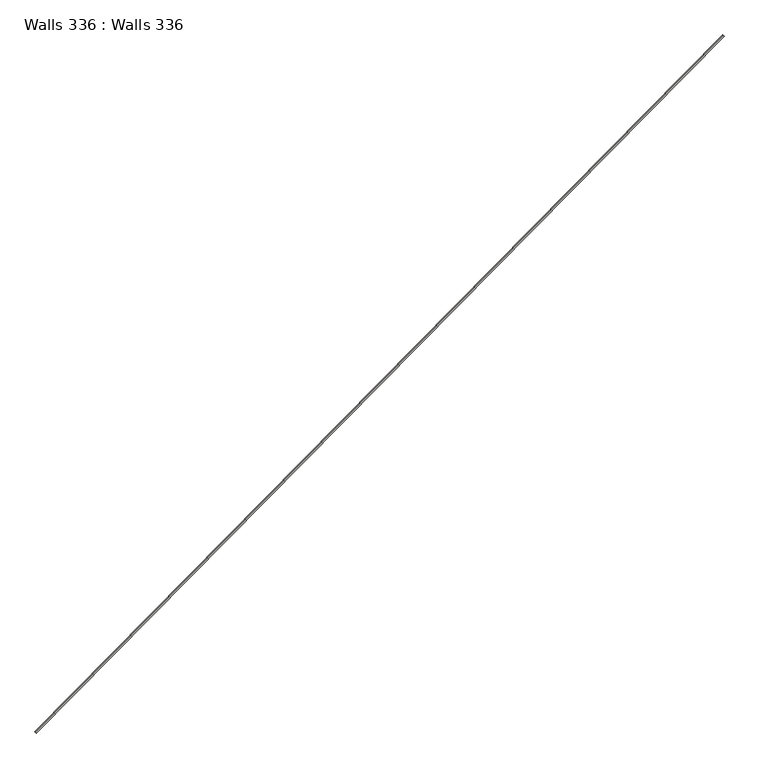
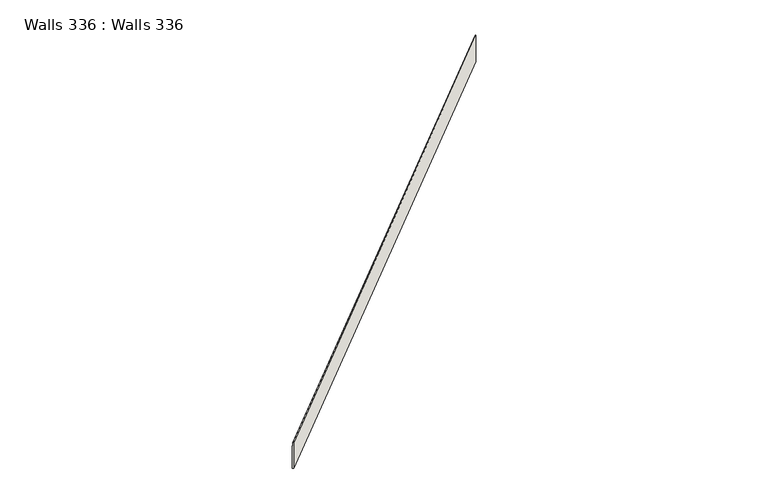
"""IFC4 building model written with IfcOpenShell, lengths in millimetres: wall geometry, Walls 336 : Walls 336."""

import ifcopenshell
import ifcopenshell.guid

model = None  # the IFC model being written
_history = None  # IfcOwnerHistory: only IFC2X3 demands one
_inside = {}  # id of a spatial element -> (the spatial element, [elements in it])
_under = {}  # id of a project, library or spatial element -> (it, [spatial elements below it])
_declared = {}  # id of a project -> (the project, [libraries it declares])
_typed = {}  # id of a type object -> (the type object, [elements of that type])
_made_of = {}  # id of a material, layer set ... -> (it, [elements and type objects made of it])


def new_model(schema):
    """Start an empty IFC model of exactly this schema.

    Asked for "IFC4X3", IfcOpenShell would pick the latest addendum, in which some entities
    have other attributes; the version numbers below select the first issue.
    IFC2X3 requires an IfcOwnerHistory on every rooted entity: one is made here for all.
    """
    global model, _history
    if schema == "IFC4X3":
        model = ifcopenshell.file(schema_version=(4, 3, 0, 0))
    else:
        model = ifcopenshell.file(schema=schema)
    _inside.clear()
    _under.clear()
    _declared.clear()
    _typed.clear()
    _made_of.clear()
    _history = None
    if model.schema == "IFC2X3":
        org = make("IfcOrganization", Name="unknown")
        user = make(
            "IfcPersonAndOrganization",
            ThePerson=make("IfcPerson", FamilyName="unknown"),
            TheOrganization=org,
        )
        app = make(
            "IfcApplication",
            ApplicationDeveloper=org,
            Version="unknown",
            ApplicationFullName="unknown",
            ApplicationIdentifier="unknown",
        )
        _history = make(
            "IfcOwnerHistory",
            OwningUser=user,
            OwningApplication=app,
            ChangeAction="ADDED",
            CreationDate=0,
        )
    return model


def make(cls, **values):
    """One entity of the class cls with the attributes given. An attribute that is None is left unset."""
    return model.create_entity(
        cls, **{name: value for name, value in values.items() if value is not None}
    )


def rooted(cls, **values):
    """An entity with a GlobalId (a new one), such as an element, a storey or a relation."""
    return make(cls, GlobalId=ifcopenshell.guid.new(), OwnerHistory=_history, **values)


def si_unit(unit_type, name, prefix=None):
    """IfcSIUnit, for example si_unit("LENGTHUNIT", "METRE", prefix="MILLI")."""
    return make("IfcSIUnit", UnitType=unit_type, Prefix=prefix, Name=name)


def assignment(units):
    """IfcUnitAssignment: the units of a project."""
    return None if units is None else make("IfcUnitAssignment", Units=units)


def point(xyz):
    """IfcCartesianPoint."""
    return None if xyz is None else make("IfcCartesianPoint", Coordinates=xyz)


def direction(xyz):
    """IfcDirection."""
    return None if xyz is None else make("IfcDirection", DirectionRatios=xyz)


def frame(location, z_axis=None, x_axis=None):
    """IfcAxis2Placement3D, a coordinate frame: its origin and axes. An axis left out is left unset."""
    return make(
        "IfcAxis2Placement3D",
        Location=point(location),
        Axis=direction(z_axis),
        RefDirection=direction(x_axis),
    )


def origin():
    """The frame at (0, 0, 0) with its axes left unset."""
    return frame((0.0, 0.0, 0.0))


def place(relative_to, where):
    """IfcLocalPlacement: puts the frame where relative to a parent placement (None: the world)."""
    return make(
        "IfcLocalPlacement", PlacementRelTo=relative_to, RelativePlacement=where
    )


def context(
    kind, dimensions, precision=None, world=None, true_north=None, identifier=None
):
    """IfcGeometricRepresentationContext, for example the 3D "Model" context."""
    return make(
        "IfcGeometricRepresentationContext",
        ContextIdentifier=identifier,
        ContextType=kind,
        CoordinateSpaceDimension=dimensions,
        Precision=precision,
        WorldCoordinateSystem=world,
        TrueNorth=true_north,
    )


def project(units=None, contexts=None):
    """IfcProject with its units and contexts."""
    return rooted(
        "IfcProject",
        Name="project",
        RepresentationContexts=contexts,
        UnitsInContext=assignment(units),
    )


def spatial(cls, under=None, at=None, **own):
    """A site, building, storey or space (cls), placed at a placement, below another one or the project."""
    s = rooted(cls, ObjectPlacement=at, **own)
    if under is not None:
        _under.setdefault(under.id(), (under, []))[1].append(s)
    return s


def faces_of(points, faces, orient=None, outer=None):
    """IfcFace entities. A face is a list of loops; a loop is a list of indices into points, from 0.

    orient and outer hold one flag for each loop. By default every Orientation is true, the
    first loop of a face is its IfcFaceOuterBound and the others are IfcFaceBound.
    """
    made = []
    for i, loops in enumerate(faces):
        bounds = []
        for j, loop in enumerate(loops):
            is_outer = j == 0 if outer is None else outer[i][j]
            bounds.append(
                make(
                    "IfcFaceOuterBound" if is_outer else "IfcFaceBound",
                    Bound=make("IfcPolyLoop", Polygon=[points[k] for k in loop]),
                    Orientation=True if orient is None else orient[i][j],
                )
            )
        made.append(make("IfcFace", Bounds=bounds))
    return made


def faceted_brep(points, faces, orient=None, outer=None, voids=None):
    """IfcFacetedBrep: a solid bounded by flat faces; with voids (closed shells), ...WithVoids."""
    shared = [point(p) for p in points]
    hull = make("IfcClosedShell", CfsFaces=faces_of(shared, faces, orient, outer))
    if voids is None:
        return make("IfcFacetedBrep", Outer=hull)
    return make(
        "IfcFacetedBrepWithVoids",
        Outer=hull,
        Voids=[
            make(cls, CfsFaces=faces_of(shared, fs, o, b)) for cls, fs, o, b in voids
        ],
    )


def shape(context_of_items, identifier, shape_type, items):
    """IfcShapeRepresentation: the items that make up one representation, for example the "Body"."""
    return make(
        "IfcShapeRepresentation",
        ContextOfItems=context_of_items,
        RepresentationIdentifier=identifier,
        RepresentationType=shape_type,
        Items=items,
    )


def source(mapping_origin, context_of_items, identifier, shape_type, items):
    """IfcRepresentationMap: a shape defined once, which mapped items show again and again."""
    return make(
        "IfcRepresentationMap",
        MappingOrigin=mapping_origin,
        MappedRepresentation=shape(context_of_items, identifier, shape_type, items),
    )


def transform(
    local_origin,
    x_axis=None,
    y_axis=None,
    z_axis=None,
    scale=None,
    scale2=None,
    scale3=None,
    uniform=True,
):
    """IfcCartesianTransformationOperator3D, or its non-uniform kind. x_axis, y_axis, z_axis: its Axis1, 2, 3."""
    if uniform:
        return make(
            "IfcCartesianTransformationOperator3D",
            Axis1=direction(x_axis),
            Axis2=direction(y_axis),
            LocalOrigin=point(local_origin),
            Scale=scale,
            Axis3=direction(z_axis),
        )
    return make(
        "IfcCartesianTransformationOperator3DnonUniform",
        Axis1=direction(x_axis),
        Axis2=direction(y_axis),
        LocalOrigin=point(local_origin),
        Scale=scale,
        Axis3=direction(z_axis),
        Scale2=scale2,
        Scale3=scale3,
    )


def mapped(mapping_source, mapping_target):
    """IfcMappedItem: shows the shape of a source again, moved by a transform."""
    return make(
        "IfcMappedItem", MappingSource=mapping_source, MappingTarget=mapping_target
    )


def made_of(thing, what):
    """Note that an element or type object is made of a material, layer set ...; save() writes the relation."""
    if what is not None:
        _made_of.setdefault(what.id(), (what, []))[1].append(thing)
    return thing


def element(
    cls,
    number,
    at=None,
    inside=None,
    cuts=None,
    type_object=None,
    material=None,
    context=None,
    identifier="Body",
    shape_type=None,
    held_by="IfcProductDefinitionShape",
    body=None,
    shapes=None,
    **own,
):
    """One element of the class cls, such as IfcWall. Its Tag is "e" and its number.

    at: its placement. inside: the storey or other place that contains it. cuts: it is an
    opening in that element (IfcRelVoidsElement). A single representation is given by context,
    identifier, shape_type and body (its items); several are given by shapes. held_by: the class
    of the entity that holds the representations. save() writes the other relations.
    """
    e = rooted(cls, Tag="e%d" % number, ObjectPlacement=at, **own)
    if body is not None:
        shapes = [shape(context, identifier, shape_type, body)]
    if shapes is not None:
        e.Representation = make(held_by, Representations=shapes)
    if inside is not None:
        _inside.setdefault(inside.id(), (inside, []))[1].append(e)
    if cuts is not None:
        rooted(
            "IfcRelVoidsElement", RelatingBuildingElement=cuts, RelatedOpeningElement=e
        )
    if type_object is not None:
        _typed.setdefault(type_object.id(), (type_object, []))[1].append(e)
    return made_of(e, material)


def aggregate(whole, parts):
    """IfcRelAggregates: a whole, such as a stair, and the parts it consists of."""
    return rooted("IfcRelAggregates", RelatingObject=whole, RelatedObjects=parts)


def save(model, path):
    """Write the relations noted so far, then the file.

    IfcRelAggregates (storeys below a building ...), IfcRelContainedInSpatialStructure (elements
    in a storey), IfcRelDefinesByType, IfcRelAssociatesMaterial and IfcRelDeclares: one each for
    every whole, place, type object, material and project.
    """
    for whole, parts in _under.values():
        aggregate(whole, parts)
    for where, things in _inside.values():
        rooted(
            "IfcRelContainedInSpatialStructure",
            RelatedElements=things,
            RelatingStructure=where,
        )
    for kind, things in _typed.values():
        rooted("IfcRelDefinesByType", RelatedObjects=things, RelatingType=kind)
    for what, things in _made_of.values():
        rooted("IfcRelAssociatesMaterial", RelatedObjects=things, RelatingMaterial=what)
    for by, libraries in _declared.values():
        rooted("IfcRelDeclares", RelatingContext=by, RelatedDefinitions=libraries)
    model.write(path)


def walls_336_walls_336_ace3e90b(model_context):
    return source(origin(), model_context, "Body", "Brep", [
        faceted_brep([(-104058.9841551, -220829.656485, 636979.0), (-103809.8875553, -221075.5240996, 636979.0), (-103809.8875553, -221075.5240996, 643979.0), (-103952.2284695, -220935.0283198, 643979.0), (-103952.2284695, -220935.0283198, 642979.0), (-104058.9841551, -220829.656485, 642979.0), (10251.1702054, -105018.2641475, 638639.0), (10251.1702054, -105018.2641475, 644883.0), (10357.925891, -105123.6359823, 644883.0), (10357.925891, -105123.6359823, 645883.0), (10500.2668052, -105264.1317621, 645883.0), (10500.2668052, -105264.1317621, 638639.0)], [[[0, 1, 2, 3, 4, 5]], [[6, 7, 8, 9, 10, 11]], [[6, 11, 1, 0]], [[11, 10, 2, 1]], [[10, 9, 3, 2]], [[9, 8, 4, 3]], [[8, 7, 5, 4]], [[7, 6, 0, 5]]]),
    ])


if __name__ == "__main__":
    model = new_model("IFC4")
    model_context = context("Model", 3, world=origin())
    ifc_project = project(units=[si_unit("LENGTHUNIT", "METRE", prefix="MILLI")], contexts=[model_context])
    site = spatial("IfcSite", under=ifc_project)
    building = spatial("IfcBuilding", under=site)
    placement = place(None, origin())
    walls_336_walls_336_shape = walls_336_walls_336_ace3e90b(model_context)
    element("IfcWall", 1, ObjectType="Walls 336 : Walls 336", at=placement, inside=building, context=model_context, shape_type="MappedRepresentation", body=[
        mapped(walls_336_walls_336_shape, transform((0.0, 0.0, 0.0), x_axis=(1.0, 0.0, 0.0), y_axis=(0.0, 1.0, 0.0), z_axis=(0.0, 0.0, 1.0))),
    ])
    save(model, "model.ifc")
